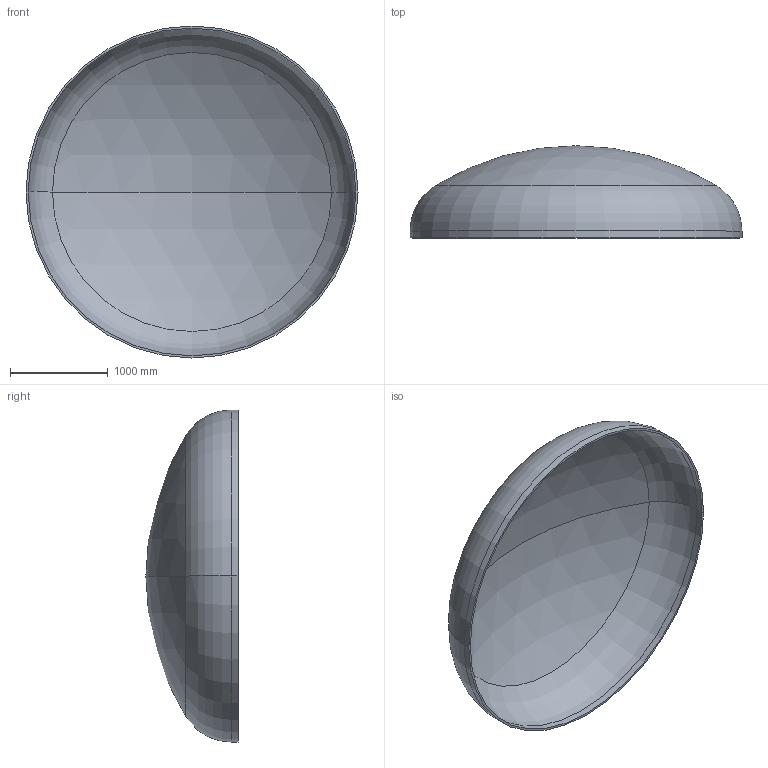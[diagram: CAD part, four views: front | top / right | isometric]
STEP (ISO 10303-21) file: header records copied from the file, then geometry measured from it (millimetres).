
FILE_DESCRIPTION (( 'STEP AP203' ), '1' );
FILE_NAME ('DIN 28013 Korbbogenform_-_Boden DIN 28013 - 3400 x 70 - I - s=22.step', '2016-07-01T19:17:30', ( '' ), ( '' ), 'SwSTEP 2.0', 'SolidWorks 2013', '' );
FILE_SCHEMA (( 'CONFIG_CONTROL_DESIGN' ));
Length unit declared in the file: millimetre
Products named in the file (1): DIN 28013 Korbbogenform_-_Boden DIN 28013 - 3400 x 70 - I - s=22
Bounding box: 3400 x 944.22 x 3400 mm (x, y, z)
Volume: 290774767.1 mm3; surface area: 26668543.8 mm2
Topology: 1 solids, 1 shells, 13 faces, 24 edges, 14 vertices
Faces by surface type: torus 4, cylinder 4, sphere 4, plane 1
Entity records: 407 total; most frequent: DIRECTION 72, CARTESIAN_POINT 52, ORIENTED_EDGE 48, AXIS2_PLACEMENT_3D 34, EDGE_CURVE 24, CIRCLE 20, EDGE_LOOP 14, VERTEX_POINT 14
